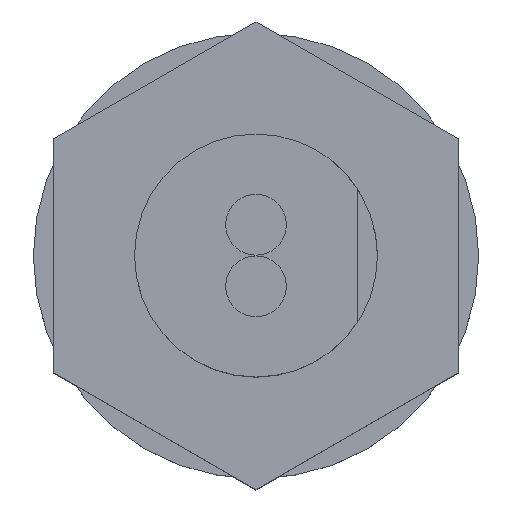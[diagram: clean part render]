
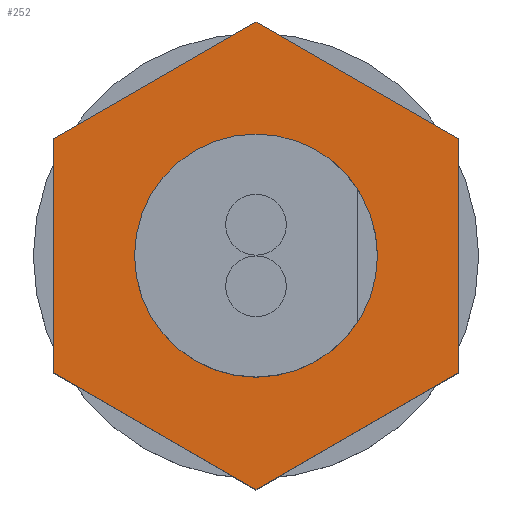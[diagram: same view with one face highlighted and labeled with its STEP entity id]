
A CAD part, top view. The second image highlights one B-rep face of the part: STEP entity #252.
In plain terms, the highlighted planar face has unit normal (0, 0, 1) as drawn and (-1, 0, 0) by its records, which use the part's own axes.
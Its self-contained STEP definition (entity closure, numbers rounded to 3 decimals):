
#172 = EDGE_LOOP ( 'NONE', ( #173, #177, #180, #183, #186, #189 ) ) ;
#173 = ORIENTED_EDGE ( 'NONE', *, *, #174, .T. ) ;
#174 = EDGE_CURVE ( 'NONE', #175, #176, #838, .T. ) ;
#175 = VERTEX_POINT ( 'NONE', #834 ) ;
#176 = VERTEX_POINT ( 'NONE', #833 ) ;
#177 = ORIENTED_EDGE ( 'NONE', *, *, #178, .T. ) ;
#178 = EDGE_CURVE ( 'NONE', #176, #179, #896, .T. ) ;
#179 = VERTEX_POINT ( 'NONE', #892 ) ;
#180 = ORIENTED_EDGE ( 'NONE', *, *, #181, .T. ) ;
#181 = EDGE_CURVE ( 'NONE', #179, #182, #891, .T. ) ;
#182 = VERTEX_POINT ( 'NONE', #887 ) ;
#183 = ORIENTED_EDGE ( 'NONE', *, *, #184, .T. ) ;
#184 = EDGE_CURVE ( 'NONE', #182, #185, #886, .T. ) ;
#185 = VERTEX_POINT ( 'NONE', #882 ) ;
#186 = ORIENTED_EDGE ( 'NONE', *, *, #187, .T. ) ;
#187 = EDGE_CURVE ( 'NONE', #185, #188, #881, .T. ) ;
#188 = VERTEX_POINT ( 'NONE', #877 ) ;
#189 = ORIENTED_EDGE ( 'NONE', *, *, #190, .T. ) ;
#190 = EDGE_CURVE ( 'NONE', #188, #175, #876, .T. ) ;
#191 = EDGE_LOOP ( 'NONE', ( #192, #193 ) ) ;
#192 = ORIENTED_EDGE ( 'NONE', *, *, #241, .F. ) ;
#193 = ORIENTED_EDGE ( 'NONE', *, *, #194, .F. ) ;
#194 = EDGE_CURVE ( 'NONE', #243, #242, #872, .T. ) ;
#241 = EDGE_CURVE ( 'NONE', #242, #243, #931, .T. ) ;
#242 = VERTEX_POINT ( 'NONE', #991 ) ;
#243 = VERTEX_POINT ( 'NONE', #990 ) ;
#252 = ADVANCED_FACE ( 'NONE', ( #974, #973 ), #972, .F. ) ;
#833 = CARTESIAN_POINT ( 'NONE',  ( -9., 0., -5.774 ) ) ;
#834 = CARTESIAN_POINT ( 'NONE',  ( -9., 5., -2.887 ) ) ;
#835 = DIRECTION ( 'NONE',  ( 0., -0.866, -0.5 ) ) ;
#836 = VECTOR ( 'NONE', #835, 1000. ) ;
#837 = CARTESIAN_POINT ( 'NONE',  ( -9., 5., -2.887 ) ) ;
#838 = LINE ( 'NONE', #837, #836 ) ;
#868 = DIRECTION ( 'NONE',  ( 0., 0., 1. ) ) ;
#869 = DIRECTION ( 'NONE',  ( -1., 0., 0. ) ) ;
#870 = CARTESIAN_POINT ( 'NONE',  ( -9., 0., 0. ) ) ;
#871 = AXIS2_PLACEMENT_3D ( 'NONE', #870, #869, #868 ) ;
#872 = CIRCLE ( 'NONE', #871, 3. ) ;
#873 = DIRECTION ( 'NONE',  ( 0., 0., -1. ) ) ;
#874 = VECTOR ( 'NONE', #873, 1000. ) ;
#875 = CARTESIAN_POINT ( 'NONE',  ( -9., 5., 2.887 ) ) ;
#876 = LINE ( 'NONE', #875, #874 ) ;
#877 = CARTESIAN_POINT ( 'NONE',  ( -9., 5., 2.887 ) ) ;
#878 = DIRECTION ( 'NONE',  ( 0., 0.866, -0.5 ) ) ;
#879 = VECTOR ( 'NONE', #878, 1000. ) ;
#880 = CARTESIAN_POINT ( 'NONE',  ( -9., 0., 5.774 ) ) ;
#881 = LINE ( 'NONE', #880, #879 ) ;
#882 = CARTESIAN_POINT ( 'NONE',  ( -9., 0., 5.774 ) ) ;
#883 = DIRECTION ( 'NONE',  ( 0., 0.866, 0.5 ) ) ;
#884 = VECTOR ( 'NONE', #883, 1000. ) ;
#885 = CARTESIAN_POINT ( 'NONE',  ( -9., -5., 2.887 ) ) ;
#886 = LINE ( 'NONE', #885, #884 ) ;
#887 = CARTESIAN_POINT ( 'NONE',  ( -9., -5., 2.887 ) ) ;
#888 = DIRECTION ( 'NONE',  ( 0., 0., 1. ) ) ;
#889 = VECTOR ( 'NONE', #888, 1000. ) ;
#890 = CARTESIAN_POINT ( 'NONE',  ( -9., -5., -2.887 ) ) ;
#891 = LINE ( 'NONE', #890, #889 ) ;
#892 = CARTESIAN_POINT ( 'NONE',  ( -9., -5., -2.887 ) ) ;
#893 = DIRECTION ( 'NONE',  ( 0., -0.866, 0.5 ) ) ;
#894 = VECTOR ( 'NONE', #893, 1000. ) ;
#895 = CARTESIAN_POINT ( 'NONE',  ( -9., 0., -5.774 ) ) ;
#896 = LINE ( 'NONE', #895, #894 ) ;
#929 = CARTESIAN_POINT ( 'NONE',  ( -9., 0., 0. ) ) ;
#930 = AXIS2_PLACEMENT_3D ( 'NONE', #929, #993, #992 ) ;
#931 = CIRCLE ( 'NONE', #930, 3. ) ;
#968 = DIRECTION ( 'NONE',  ( 0., 0., -1. ) ) ;
#969 = DIRECTION ( 'NONE',  ( 1., 0., 0. ) ) ;
#970 = CARTESIAN_POINT ( 'NONE',  ( -9., 10., 0. ) ) ;
#971 = AXIS2_PLACEMENT_3D ( 'NONE', #970, #969, #968 ) ;
#972 = PLANE ( 'NONE',  #971 ) ;
#973 = FACE_BOUND ( 'NONE', #191, .T. ) ;
#974 = FACE_OUTER_BOUND ( 'NONE', #172, .T. ) ;
#990 = CARTESIAN_POINT ( 'NONE',  ( -9., 0., 3. ) ) ;
#991 = CARTESIAN_POINT ( 'NONE',  ( -9., 0., -3. ) ) ;
#992 = DIRECTION ( 'NONE',  ( 0., 0., 1. ) ) ;
#993 = DIRECTION ( 'NONE',  ( -1., 0., 0. ) ) ;
